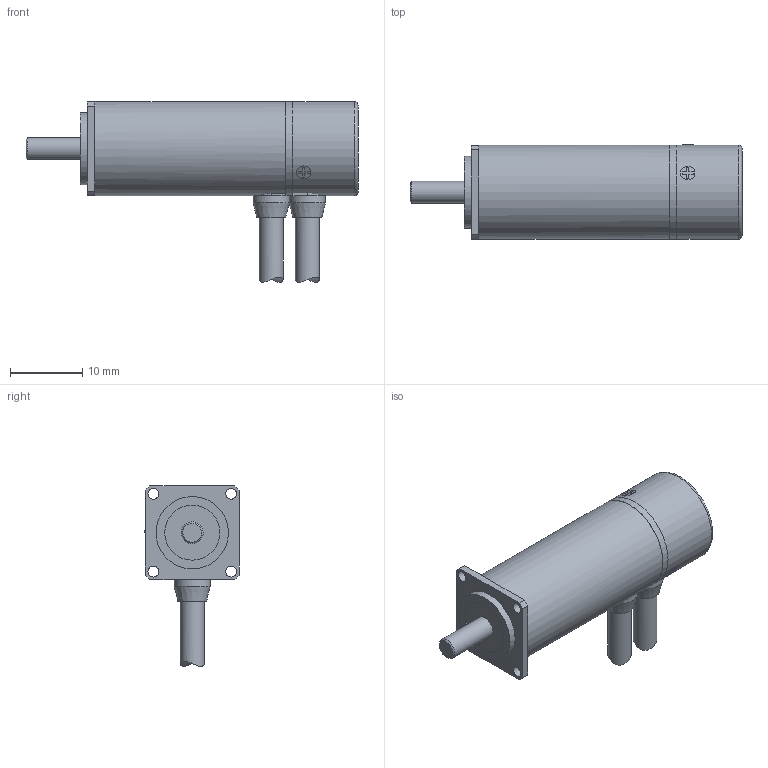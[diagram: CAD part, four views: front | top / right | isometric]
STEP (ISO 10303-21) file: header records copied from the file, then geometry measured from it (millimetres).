
FILE_DESCRIPTION(('STEP AP214'),'1');
FILE_NAME('LC18H02C MDS-1318-11B.stp','2022-04-13T06:42:25',(' '),(' '),'Spatial InterOp 3D',' ',' ');
FILE_SCHEMA(('AUTOMOTIVE_DESIGN { 1 0 10303 214 1 1 1 1 }'));
Length unit declared in the file: millimetre
Products named in the file (11): LC18H02C MDS-1318-11B; 018211 サラコネジ M1.4X2.5; 041980 3芯屈曲ケーブル(3.3)0.3M-TE; - ケーブルモータAssy図面用; 4.2ゴムブッシュ - コピー; 041981 14芯屈曲ケーブル(3.3)0.3M-HRS; - ケーブルモータAssy用モデル; ケーブルプッシュφ4.2 - コピー
Assembly tree (12 placements, depth 3):
  LC18H02C MDS-1318-11B
    LC18H02C MDS-1318-11B
    LC18H02C MDS-1318-11B
    LC18H02C MDS-1318-11B
    018211 サラコネジ M1.4X2.5  x3
    041980 3芯屈曲ケーブル(3.3)0.3M-TE
      - ケーブルモータAssy図面用
      4.2ゴムブッシュ - コピー
    041981 14芯屈曲ケーブル(3.3)0.3M-HRS
      - ケーブルモータAssy用モデル
      ケーブルプッシュφ4.2 - コピー
Bounding box: 45.9 x 13.07 x 24.97 mm (x, y, z)
Volume: 5459.1 mm3; surface area: 3241 mm2
Topology: 10 solids, 10 shells, 133 faces, 305 edges, 198 vertices
Faces by surface type: plane 92, cylinder 34, cone 6, torus 1
Full cylindrical faces by diameter (mm): 1.4 x3, 1.5 x4, 2 x3, 3 x1, 3.2 x1, 3.3 x3, 5 x2, 7.6 x1, 10 x1, 13 x3
Entity records: 4122 total; most frequent: CARTESIAN_POINT 588, DIRECTION 470, ORIENTED_EDGE 372, EDGE_CURVE 186, AXIS2_PLACEMENT_3D 176, EDGE_LOOP 136, VERTEX_POINT 132, LINE 118
